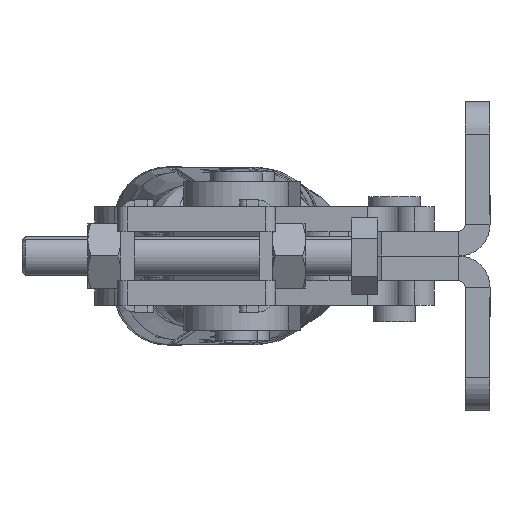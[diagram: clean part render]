
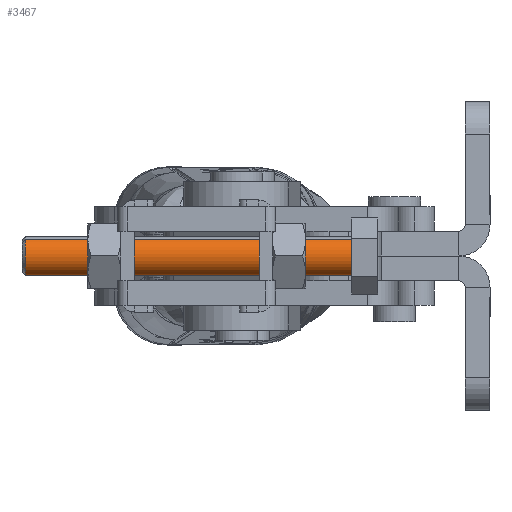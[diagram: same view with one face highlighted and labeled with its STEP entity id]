
A CAD part, left-side view. The second image highlights one B-rep face of the part: STEP entity #3467.
In plain terms, the highlighted cylindrical face has radius 3 mm (diameter 6 mm), a partial arc.
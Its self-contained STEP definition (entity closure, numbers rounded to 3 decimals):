
#561 = CARTESIAN_POINT ( 'NONE',  ( 0., -49.5, 0. ) ) ;
#771 = CIRCLE ( 'NONE', #5461, 3. ) ;
#2329 = LINE ( 'NONE', #17033, #19412 ) ;
#3467 = ADVANCED_FACE ( 'NONE', ( #13897 ), #4271, .T. ) ;
#4194 = LINE ( 'NONE', #15076, #22043 ) ;
#4271 = CYLINDRICAL_SURFACE ( 'NONE', #15268, 3. ) ;
#5080 = EDGE_CURVE ( 'NONE', #21806, #23653, #771, .T. ) ;
#5461 = AXIS2_PLACEMENT_3D ( 'NONE', #7908, #7652, #21399 ) ;
#7652 = DIRECTION ( 'NONE',  ( 0., -1., 0. ) ) ;
#7908 = CARTESIAN_POINT ( 'NONE',  ( 0., 0., 0. ) ) ;
#8339 = EDGE_CURVE ( 'NONE', #10003, #21806, #4194, .T. ) ;
#9657 = CARTESIAN_POINT ( 'NONE',  ( 0., 0., -3. ) ) ;
#9740 = EDGE_CURVE ( 'NONE', #12868, #23653, #2329, .T. ) ;
#10003 = VERTEX_POINT ( 'NONE', #18482 ) ;
#10649 = AXIS2_PLACEMENT_3D ( 'NONE', #561, #23538, #14013 ) ;
#11354 = DIRECTION ( 'NONE',  ( 0., 1., 0. ) ) ;
#11455 = ORIENTED_EDGE ( 'NONE', *, *, #9740, .F. ) ;
#11798 = DIRECTION ( 'NONE',  ( 0., 1., 0. ) ) ;
#12868 = VERTEX_POINT ( 'NONE', #21378 ) ;
#13684 = DIRECTION ( 'NONE',  ( 0., 1., 0. ) ) ;
#13897 = FACE_OUTER_BOUND ( 'NONE', #24074, .T. ) ;
#14013 = DIRECTION ( 'NONE',  ( 0., 0., -1. ) ) ;
#15076 = CARTESIAN_POINT ( 'NONE',  ( 0., -50., -3. ) ) ;
#15268 = AXIS2_PLACEMENT_3D ( 'NONE', #17240, #11798, #20964 ) ;
#15691 = EDGE_CURVE ( 'NONE', #12868, #10003, #21336, .T. ) ;
#16338 = ORIENTED_EDGE ( 'NONE', *, *, #8339, .T. ) ;
#16449 = ORIENTED_EDGE ( 'NONE', *, *, #5080, .T. ) ;
#16578 = CARTESIAN_POINT ( 'NONE',  ( 0., 0., 3. ) ) ;
#17033 = CARTESIAN_POINT ( 'NONE',  ( 0., -50., 3. ) ) ;
#17037 = ORIENTED_EDGE ( 'NONE', *, *, #15691, .T. ) ;
#17240 = CARTESIAN_POINT ( 'NONE',  ( 0., -50., 0. ) ) ;
#18482 = CARTESIAN_POINT ( 'NONE',  ( 0., -49.5, -3. ) ) ;
#19412 = VECTOR ( 'NONE', #13684, 1000. ) ;
#20964 = DIRECTION ( 'NONE',  ( 0., 0., 1. ) ) ;
#21336 = CIRCLE ( 'NONE', #10649, 3. ) ;
#21378 = CARTESIAN_POINT ( 'NONE',  ( 0., -49.5, 3. ) ) ;
#21399 = DIRECTION ( 'NONE',  ( 0., 0., 1. ) ) ;
#21806 = VERTEX_POINT ( 'NONE', #9657 ) ;
#22043 = VECTOR ( 'NONE', #11354, 1000. ) ;
#23538 = DIRECTION ( 'NONE',  ( 0., 1., 0. ) ) ;
#23653 = VERTEX_POINT ( 'NONE', #16578 ) ;
#24074 = EDGE_LOOP ( 'NONE', ( #17037, #16338, #16449, #11455 ) ) ;
